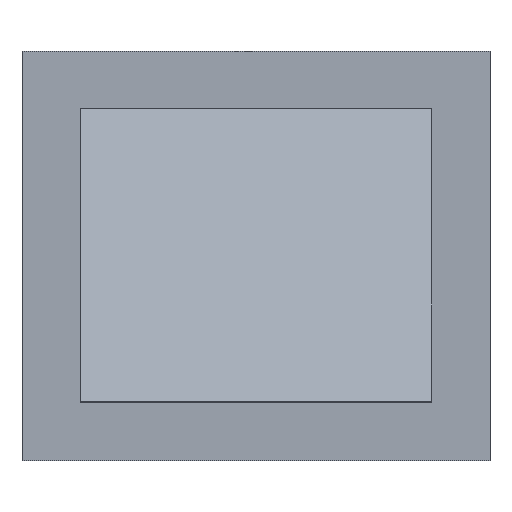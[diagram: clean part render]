
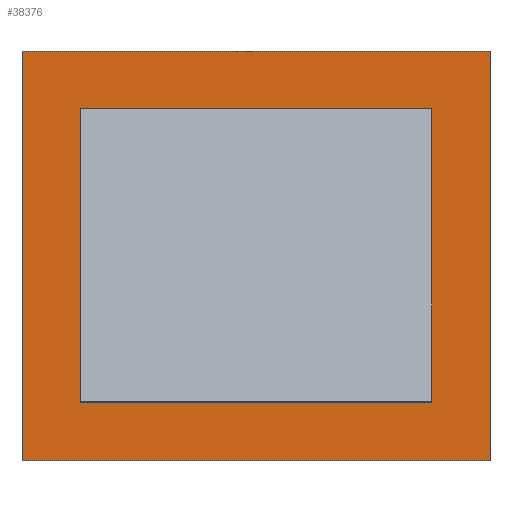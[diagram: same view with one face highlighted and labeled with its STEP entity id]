
A CAD part, top view. The second image highlights one B-rep face of the part: STEP entity #38376.
In plain terms, the highlighted planar face has unit normal (0, 0, 1).
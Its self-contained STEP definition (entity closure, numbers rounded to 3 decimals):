
#37773 = PLANE('',#37774);
#37774 = AXIS2_PLACEMENT_3D('',#37775,#37776,#37777);
#37775 = CARTESIAN_POINT('',(37.04,-40.68,13.25));
#37776 = DIRECTION('',(-0.,1.,0.));
#37777 = DIRECTION('',(0.,0.,1.));
#37906 = PLANE('',#37907);
#37907 = AXIS2_PLACEMENT_3D('',#37908,#37909,#37910);
#37908 = CARTESIAN_POINT('',(37.04,-45.68,13.25));
#37909 = DIRECTION('',(1.,0.,-0.));
#37910 = DIRECTION('',(0.,0.,1.));
#38034 = PLANE('',#38035);
#38035 = AXIS2_PLACEMENT_3D('',#38036,#38037,#38038);
#38036 = CARTESIAN_POINT('',(37.04,-45.68,13.25));
#38037 = DIRECTION('',(-0.,1.,0.));
#38038 = DIRECTION('',(0.,0.,1.));
#38146 = PLANE('',#38147);
#38147 = AXIS2_PLACEMENT_3D('',#38148,#38149,#38150);
#38148 = CARTESIAN_POINT('',(43.04,-45.68,13.25));
#38149 = DIRECTION('',(1.,0.,-0.));
#38150 = DIRECTION('',(0.,0.,1.));
#38188 = VERTEX_POINT('',#38189);
#38189 = CARTESIAN_POINT('',(43.04,-40.68,13.35));
#38210 = EDGE_CURVE('',#38211,#38188,#38213,.T.);
#38211 = VERTEX_POINT('',#38212);
#38212 = CARTESIAN_POINT('',(37.04,-40.68,13.35));
#38213 = SURFACE_CURVE('',#38214,(#38218,#38224),.PCURVE_S1.);
#38214 = LINE('',#38215,#38216);
#38215 = CARTESIAN_POINT('',(36.54,-40.68,13.35));
#38216 = VECTOR('',#38217,1.);
#38217 = DIRECTION('',(1.,0.,-0.));
#38218 = PCURVE('',#37773,#38219);
#38219 = DEFINITIONAL_REPRESENTATION('',(#38220),#38223);
#38220 = B_SPLINE_CURVE_WITH_KNOTS('',1,(#38221,#38222),.UNSPECIFIED.,
  .F.,.F.,(2,2),(0.5,6.5),.PIECEWISE_BEZIER_KNOTS.);
#38221 = CARTESIAN_POINT('',(0.1,0.));
#38222 = CARTESIAN_POINT('',(0.1,6.));
#38223 = ( GEOMETRIC_REPRESENTATION_CONTEXT(2) 
PARAMETRIC_REPRESENTATION_CONTEXT() REPRESENTATION_CONTEXT('2D SPACE',''
  ) );
#38224 = PCURVE('',#38225,#38230);
#38225 = PLANE('',#38226);
#38226 = AXIS2_PLACEMENT_3D('',#38227,#38228,#38229);
#38227 = CARTESIAN_POINT('',(36.04,-46.68,13.35));
#38228 = DIRECTION('',(0.,0.,1.));
#38229 = DIRECTION('',(1.,0.,-0.));
#38230 = DEFINITIONAL_REPRESENTATION('',(#38231),#38234);
#38231 = B_SPLINE_CURVE_WITH_KNOTS('',1,(#38232,#38233),.UNSPECIFIED.,
  .F.,.F.,(2,2),(0.5,6.5),.PIECEWISE_BEZIER_KNOTS.);
#38232 = CARTESIAN_POINT('',(1.,6.));
#38233 = CARTESIAN_POINT('',(7.,6.));
#38234 = ( GEOMETRIC_REPRESENTATION_CONTEXT(2) 
PARAMETRIC_REPRESENTATION_CONTEXT() REPRESENTATION_CONTEXT('2D SPACE',''
  ) );
#38262 = VERTEX_POINT('',#38263);
#38263 = CARTESIAN_POINT('',(43.04,-45.68,13.35));
#38284 = EDGE_CURVE('',#38188,#38262,#38285,.T.);
#38285 = SURFACE_CURVE('',#38286,(#38290,#38296),.PCURVE_S1.);
#38286 = LINE('',#38287,#38288);
#38287 = CARTESIAN_POINT('',(43.04,-46.18,13.35));
#38288 = VECTOR('',#38289,1.);
#38289 = DIRECTION('',(0.,-1.,0.));
#38290 = PCURVE('',#38146,#38291);
#38291 = DEFINITIONAL_REPRESENTATION('',(#38292),#38295);
#38292 = B_SPLINE_CURVE_WITH_KNOTS('',1,(#38293,#38294),.UNSPECIFIED.,
  .F.,.F.,(2,2),(-5.5,-0.5),.PIECEWISE_BEZIER_KNOTS.);
#38293 = CARTESIAN_POINT('',(0.1,-5.));
#38294 = CARTESIAN_POINT('',(0.1,0.));
#38295 = ( GEOMETRIC_REPRESENTATION_CONTEXT(2) 
PARAMETRIC_REPRESENTATION_CONTEXT() REPRESENTATION_CONTEXT('2D SPACE',''
  ) );
#38296 = PCURVE('',#38225,#38297);
#38297 = DEFINITIONAL_REPRESENTATION('',(#38298),#38301);
#38298 = B_SPLINE_CURVE_WITH_KNOTS('',1,(#38299,#38300),.UNSPECIFIED.,
  .F.,.F.,(2,2),(-5.5,-0.5),.PIECEWISE_BEZIER_KNOTS.);
#38299 = CARTESIAN_POINT('',(7.,6.));
#38300 = CARTESIAN_POINT('',(7.,1.));
#38301 = ( GEOMETRIC_REPRESENTATION_CONTEXT(2) 
PARAMETRIC_REPRESENTATION_CONTEXT() REPRESENTATION_CONTEXT('2D SPACE',''
  ) );
#38309 = EDGE_CURVE('',#38310,#38262,#38312,.T.);
#38310 = VERTEX_POINT('',#38311);
#38311 = CARTESIAN_POINT('',(37.04,-45.68,13.35));
#38312 = SURFACE_CURVE('',#38313,(#38317,#38323),.PCURVE_S1.);
#38313 = LINE('',#38314,#38315);
#38314 = CARTESIAN_POINT('',(36.54,-45.68,13.35));
#38315 = VECTOR('',#38316,1.);
#38316 = DIRECTION('',(1.,0.,-0.));
#38317 = PCURVE('',#38034,#38318);
#38318 = DEFINITIONAL_REPRESENTATION('',(#38319),#38322);
#38319 = B_SPLINE_CURVE_WITH_KNOTS('',1,(#38320,#38321),.UNSPECIFIED.,
  .F.,.F.,(2,2),(0.5,6.5),.PIECEWISE_BEZIER_KNOTS.);
#38320 = CARTESIAN_POINT('',(0.1,0.));
#38321 = CARTESIAN_POINT('',(0.1,6.));
#38322 = ( GEOMETRIC_REPRESENTATION_CONTEXT(2) 
PARAMETRIC_REPRESENTATION_CONTEXT() REPRESENTATION_CONTEXT('2D SPACE',''
  ) );
#38323 = PCURVE('',#38225,#38324);
#38324 = DEFINITIONAL_REPRESENTATION('',(#38325),#38328);
#38325 = B_SPLINE_CURVE_WITH_KNOTS('',1,(#38326,#38327),.UNSPECIFIED.,
  .F.,.F.,(2,2),(0.5,6.5),.PIECEWISE_BEZIER_KNOTS.);
#38326 = CARTESIAN_POINT('',(1.,1.));
#38327 = CARTESIAN_POINT('',(7.,1.));
#38328 = ( GEOMETRIC_REPRESENTATION_CONTEXT(2) 
PARAMETRIC_REPRESENTATION_CONTEXT() REPRESENTATION_CONTEXT('2D SPACE',''
  ) );
#38356 = EDGE_CURVE('',#38211,#38310,#38357,.T.);
#38357 = SURFACE_CURVE('',#38358,(#38362,#38368),.PCURVE_S1.);
#38358 = LINE('',#38359,#38360);
#38359 = CARTESIAN_POINT('',(37.04,-46.18,13.35));
#38360 = VECTOR('',#38361,1.);
#38361 = DIRECTION('',(0.,-1.,0.));
#38362 = PCURVE('',#37906,#38363);
#38363 = DEFINITIONAL_REPRESENTATION('',(#38364),#38367);
#38364 = B_SPLINE_CURVE_WITH_KNOTS('',1,(#38365,#38366),.UNSPECIFIED.,
  .F.,.F.,(2,2),(-5.5,-0.5),.PIECEWISE_BEZIER_KNOTS.);
#38365 = CARTESIAN_POINT('',(0.1,-5.));
#38366 = CARTESIAN_POINT('',(0.1,0.));
#38367 = ( GEOMETRIC_REPRESENTATION_CONTEXT(2) 
PARAMETRIC_REPRESENTATION_CONTEXT() REPRESENTATION_CONTEXT('2D SPACE',''
  ) );
#38368 = PCURVE('',#38225,#38369);
#38369 = DEFINITIONAL_REPRESENTATION('',(#38370),#38373);
#38370 = B_SPLINE_CURVE_WITH_KNOTS('',1,(#38371,#38372),.UNSPECIFIED.,
  .F.,.F.,(2,2),(-5.5,-0.5),.PIECEWISE_BEZIER_KNOTS.);
#38371 = CARTESIAN_POINT('',(1.,6.));
#38372 = CARTESIAN_POINT('',(1.,1.));
#38373 = ( GEOMETRIC_REPRESENTATION_CONTEXT(2) 
PARAMETRIC_REPRESENTATION_CONTEXT() REPRESENTATION_CONTEXT('2D SPACE',''
  ) );
#38376 = ADVANCED_FACE('',(#38377,#38491),#38225,.T.);
#38377 = FACE_BOUND('',#38378,.T.);
#38378 = EDGE_LOOP('',(#38379,#38409,#38437,#38465));
#38379 = ORIENTED_EDGE('',*,*,#38380,.F.);
#38380 = EDGE_CURVE('',#38381,#38383,#38385,.T.);
#38381 = VERTEX_POINT('',#38382);
#38382 = CARTESIAN_POINT('',(36.04,-46.68,13.35));
#38383 = VERTEX_POINT('',#38384);
#38384 = CARTESIAN_POINT('',(36.04,-39.68,13.35));
#38385 = SURFACE_CURVE('',#38386,(#38390,#38397),.PCURVE_S1.);
#38386 = LINE('',#38387,#38388);
#38387 = CARTESIAN_POINT('',(36.04,-46.68,13.35));
#38388 = VECTOR('',#38389,1.);
#38389 = DIRECTION('',(-0.,1.,0.));
#38390 = PCURVE('',#38225,#38391);
#38391 = DEFINITIONAL_REPRESENTATION('',(#38392),#38396);
#38392 = LINE('',#38393,#38394);
#38393 = CARTESIAN_POINT('',(0.,0.));
#38394 = VECTOR('',#38395,1.);
#38395 = DIRECTION('',(0.,1.));
#38396 = ( GEOMETRIC_REPRESENTATION_CONTEXT(2) 
PARAMETRIC_REPRESENTATION_CONTEXT() REPRESENTATION_CONTEXT('2D SPACE',''
  ) );
#38397 = PCURVE('',#38398,#38403);
#38398 = PLANE('',#38399);
#38399 = AXIS2_PLACEMENT_3D('',#38400,#38401,#38402);
#38400 = CARTESIAN_POINT('',(36.04,-46.68,12.35));
#38401 = DIRECTION('',(1.,0.,-0.));
#38402 = DIRECTION('',(0.,0.,1.));
#38403 = DEFINITIONAL_REPRESENTATION('',(#38404),#38408);
#38404 = LINE('',#38405,#38406);
#38405 = CARTESIAN_POINT('',(1.,0.));
#38406 = VECTOR('',#38407,1.);
#38407 = DIRECTION('',(0.,-1.));
#38408 = ( GEOMETRIC_REPRESENTATION_CONTEXT(2) 
PARAMETRIC_REPRESENTATION_CONTEXT() REPRESENTATION_CONTEXT('2D SPACE',''
  ) );
#38409 = ORIENTED_EDGE('',*,*,#38410,.T.);
#38410 = EDGE_CURVE('',#38381,#38411,#38413,.T.);
#38411 = VERTEX_POINT('',#38412);
#38412 = CARTESIAN_POINT('',(44.04,-46.68,13.35));
#38413 = SURFACE_CURVE('',#38414,(#38418,#38425),.PCURVE_S1.);
#38414 = LINE('',#38415,#38416);
#38415 = CARTESIAN_POINT('',(36.04,-46.68,13.35));
#38416 = VECTOR('',#38417,1.);
#38417 = DIRECTION('',(1.,0.,-0.));
#38418 = PCURVE('',#38225,#38419);
#38419 = DEFINITIONAL_REPRESENTATION('',(#38420),#38424);
#38420 = LINE('',#38421,#38422);
#38421 = CARTESIAN_POINT('',(0.,0.));
#38422 = VECTOR('',#38423,1.);
#38423 = DIRECTION('',(1.,0.));
#38424 = ( GEOMETRIC_REPRESENTATION_CONTEXT(2) 
PARAMETRIC_REPRESENTATION_CONTEXT() REPRESENTATION_CONTEXT('2D SPACE',''
  ) );
#38425 = PCURVE('',#38426,#38431);
#38426 = PLANE('',#38427);
#38427 = AXIS2_PLACEMENT_3D('',#38428,#38429,#38430);
#38428 = CARTESIAN_POINT('',(36.04,-46.68,12.35));
#38429 = DIRECTION('',(-0.,1.,0.));
#38430 = DIRECTION('',(0.,0.,1.));
#38431 = DEFINITIONAL_REPRESENTATION('',(#38432),#38436);
#38432 = LINE('',#38433,#38434);
#38433 = CARTESIAN_POINT('',(1.,0.));
#38434 = VECTOR('',#38435,1.);
#38435 = DIRECTION('',(0.,1.));
#38436 = ( GEOMETRIC_REPRESENTATION_CONTEXT(2) 
PARAMETRIC_REPRESENTATION_CONTEXT() REPRESENTATION_CONTEXT('2D SPACE',''
  ) );
#38437 = ORIENTED_EDGE('',*,*,#38438,.T.);
#38438 = EDGE_CURVE('',#38411,#38439,#38441,.T.);
#38439 = VERTEX_POINT('',#38440);
#38440 = CARTESIAN_POINT('',(44.04,-39.68,13.35));
#38441 = SURFACE_CURVE('',#38442,(#38446,#38453),.PCURVE_S1.);
#38442 = LINE('',#38443,#38444);
#38443 = CARTESIAN_POINT('',(44.04,-46.68,13.35));
#38444 = VECTOR('',#38445,1.);
#38445 = DIRECTION('',(-0.,1.,0.));
#38446 = PCURVE('',#38225,#38447);
#38447 = DEFINITIONAL_REPRESENTATION('',(#38448),#38452);
#38448 = LINE('',#38449,#38450);
#38449 = CARTESIAN_POINT('',(8.,0.));
#38450 = VECTOR('',#38451,1.);
#38451 = DIRECTION('',(0.,1.));
#38452 = ( GEOMETRIC_REPRESENTATION_CONTEXT(2) 
PARAMETRIC_REPRESENTATION_CONTEXT() REPRESENTATION_CONTEXT('2D SPACE',''
  ) );
#38453 = PCURVE('',#38454,#38459);
#38454 = PLANE('',#38455);
#38455 = AXIS2_PLACEMENT_3D('',#38456,#38457,#38458);
#38456 = CARTESIAN_POINT('',(44.04,-46.68,12.35));
#38457 = DIRECTION('',(1.,0.,-0.));
#38458 = DIRECTION('',(0.,0.,1.));
#38459 = DEFINITIONAL_REPRESENTATION('',(#38460),#38464);
#38460 = LINE('',#38461,#38462);
#38461 = CARTESIAN_POINT('',(1.,0.));
#38462 = VECTOR('',#38463,1.);
#38463 = DIRECTION('',(0.,-1.));
#38464 = ( GEOMETRIC_REPRESENTATION_CONTEXT(2) 
PARAMETRIC_REPRESENTATION_CONTEXT() REPRESENTATION_CONTEXT('2D SPACE',''
  ) );
#38465 = ORIENTED_EDGE('',*,*,#38466,.F.);
#38466 = EDGE_CURVE('',#38383,#38439,#38467,.T.);
#38467 = SURFACE_CURVE('',#38468,(#38472,#38479),.PCURVE_S1.);
#38468 = LINE('',#38469,#38470);
#38469 = CARTESIAN_POINT('',(36.04,-39.68,13.35));
#38470 = VECTOR('',#38471,1.);
#38471 = DIRECTION('',(1.,0.,-0.));
#38472 = PCURVE('',#38225,#38473);
#38473 = DEFINITIONAL_REPRESENTATION('',(#38474),#38478);
#38474 = LINE('',#38475,#38476);
#38475 = CARTESIAN_POINT('',(0.,7.));
#38476 = VECTOR('',#38477,1.);
#38477 = DIRECTION('',(1.,0.));
#38478 = ( GEOMETRIC_REPRESENTATION_CONTEXT(2) 
PARAMETRIC_REPRESENTATION_CONTEXT() REPRESENTATION_CONTEXT('2D SPACE',''
  ) );
#38479 = PCURVE('',#38480,#38485);
#38480 = PLANE('',#38481);
#38481 = AXIS2_PLACEMENT_3D('',#38482,#38483,#38484);
#38482 = CARTESIAN_POINT('',(36.04,-39.68,12.35));
#38483 = DIRECTION('',(-0.,1.,0.));
#38484 = DIRECTION('',(0.,0.,1.));
#38485 = DEFINITIONAL_REPRESENTATION('',(#38486),#38490);
#38486 = LINE('',#38487,#38488);
#38487 = CARTESIAN_POINT('',(1.,0.));
#38488 = VECTOR('',#38489,1.);
#38489 = DIRECTION('',(0.,1.));
#38490 = ( GEOMETRIC_REPRESENTATION_CONTEXT(2) 
PARAMETRIC_REPRESENTATION_CONTEXT() REPRESENTATION_CONTEXT('2D SPACE',''
  ) );
#38491 = FACE_BOUND('',#38492,.T.);
#38492 = EDGE_LOOP('',(#38493,#38494,#38495,#38496));
#38493 = ORIENTED_EDGE('',*,*,#38356,.F.);
#38494 = ORIENTED_EDGE('',*,*,#38210,.T.);
#38495 = ORIENTED_EDGE('',*,*,#38284,.T.);
#38496 = ORIENTED_EDGE('',*,*,#38309,.F.);
